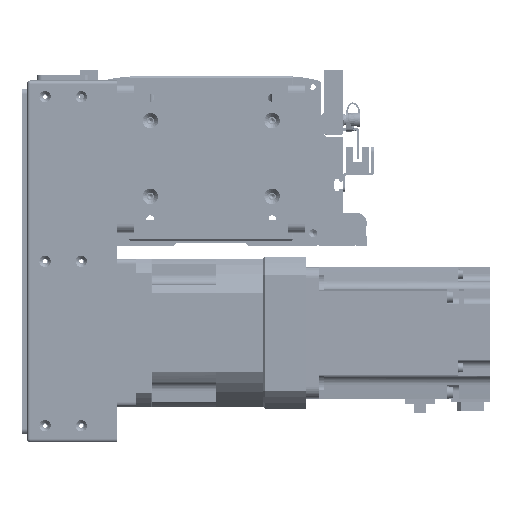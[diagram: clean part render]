
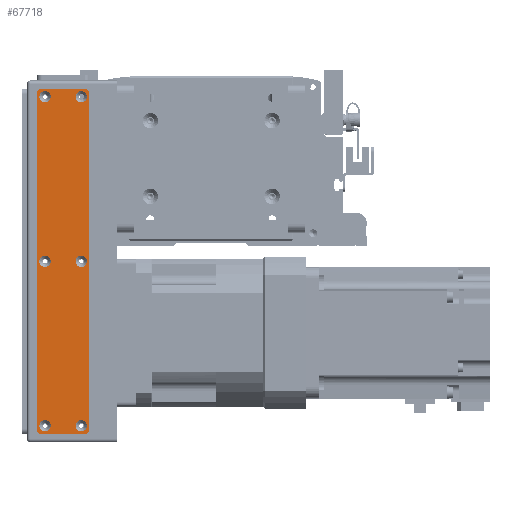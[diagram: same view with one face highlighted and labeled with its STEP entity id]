
A CAD part, front view. The second image highlights one B-rep face of the part: STEP entity #67718.
In plain terms, the highlighted planar face has unit normal (0, -1, 0).
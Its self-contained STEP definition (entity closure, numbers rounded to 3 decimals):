
#2720=FACE_BOUND('',#14126,.T.);
#2721=FACE_BOUND('',#14127,.T.);
#2722=FACE_BOUND('',#14128,.T.);
#2723=FACE_BOUND('',#14129,.T.);
#2724=FACE_BOUND('',#14130,.T.);
#2725=FACE_BOUND('',#14131,.T.);
#4817=PLANE('',#74952);
#9787=FACE_OUTER_BOUND('',#14125,.T.);
#14125=EDGE_LOOP('',(#63800,#63801,#63802,#63803,#63804,#63805,#63806,#63807));
#14126=EDGE_LOOP('',(#63808));
#14127=EDGE_LOOP('',(#63809));
#14128=EDGE_LOOP('',(#63810));
#14129=EDGE_LOOP('',(#63811));
#14130=EDGE_LOOP('',(#63812));
#14131=EDGE_LOOP('',(#63813));
#20386=LINE('',#116625,#26640);
#20387=LINE('',#116629,#26641);
#20388=LINE('',#116633,#26642);
#20389=LINE('',#116636,#26643);
#26640=VECTOR('',#94333,10.);
#26641=VECTOR('',#94336,10.);
#26642=VECTOR('',#94339,10.);
#26643=VECTOR('',#94342,10.);
#29270=CIRCLE('',#74920,3.45);
#29273=CIRCLE('',#74925,3.45);
#29276=CIRCLE('',#74930,3.45);
#29279=CIRCLE('',#74935,3.45);
#29282=CIRCLE('',#74940,3.45);
#29285=CIRCLE('',#74945,3.45);
#29288=CIRCLE('',#74950,3.);
#29290=CIRCLE('',#74953,3.);
#29291=CIRCLE('',#74954,3.);
#29292=CIRCLE('',#74955,3.);
#35505=VERTEX_POINT('',#116555);
#35508=VERTEX_POINT('',#116565);
#35511=VERTEX_POINT('',#116575);
#35514=VERTEX_POINT('',#116585);
#35517=VERTEX_POINT('',#116595);
#35520=VERTEX_POINT('',#116605);
#35523=VERTEX_POINT('',#116615);
#35524=VERTEX_POINT('',#116616);
#35527=VERTEX_POINT('',#116624);
#35528=VERTEX_POINT('',#116626);
#35529=VERTEX_POINT('',#116628);
#35530=VERTEX_POINT('',#116630);
#35531=VERTEX_POINT('',#116632);
#35532=VERTEX_POINT('',#116634);
#44924=EDGE_CURVE('',#35505,#35505,#29270,.T.);
#44929=EDGE_CURVE('',#35508,#35508,#29273,.T.);
#44934=EDGE_CURVE('',#35511,#35511,#29276,.T.);
#44939=EDGE_CURVE('',#35514,#35514,#29279,.T.);
#44944=EDGE_CURVE('',#35517,#35517,#29282,.T.);
#44949=EDGE_CURVE('',#35520,#35520,#29285,.T.);
#44954=EDGE_CURVE('',#35523,#35524,#29288,.T.);
#44958=EDGE_CURVE('',#35523,#35527,#20386,.T.);
#44959=EDGE_CURVE('',#35528,#35527,#29290,.T.);
#44960=EDGE_CURVE('',#35528,#35529,#20387,.T.);
#44961=EDGE_CURVE('',#35530,#35529,#29291,.T.);
#44962=EDGE_CURVE('',#35530,#35531,#20388,.T.);
#44963=EDGE_CURVE('',#35532,#35531,#29292,.T.);
#44964=EDGE_CURVE('',#35532,#35524,#20389,.T.);
#63800=ORIENTED_EDGE('',*,*,#44954,.F.);
#63801=ORIENTED_EDGE('',*,*,#44958,.T.);
#63802=ORIENTED_EDGE('',*,*,#44959,.F.);
#63803=ORIENTED_EDGE('',*,*,#44960,.T.);
#63804=ORIENTED_EDGE('',*,*,#44961,.F.);
#63805=ORIENTED_EDGE('',*,*,#44962,.T.);
#63806=ORIENTED_EDGE('',*,*,#44963,.F.);
#63807=ORIENTED_EDGE('',*,*,#44964,.T.);
#63808=ORIENTED_EDGE('',*,*,#44924,.T.);
#63809=ORIENTED_EDGE('',*,*,#44929,.T.);
#63810=ORIENTED_EDGE('',*,*,#44934,.T.);
#63811=ORIENTED_EDGE('',*,*,#44939,.T.);
#63812=ORIENTED_EDGE('',*,*,#44944,.T.);
#63813=ORIENTED_EDGE('',*,*,#44949,.T.);
#67718=ADVANCED_FACE('',(#9787,#2720,#2721,#2722,#2723,#2724,#2725),#4817,
 .T.);
#74920=AXIS2_PLACEMENT_3D('',#116556,#94253,#94254);
#74925=AXIS2_PLACEMENT_3D('',#116566,#94265,#94266);
#74930=AXIS2_PLACEMENT_3D('',#116576,#94277,#94278);
#74935=AXIS2_PLACEMENT_3D('',#116586,#94289,#94290);
#74940=AXIS2_PLACEMENT_3D('',#116596,#94301,#94302);
#74945=AXIS2_PLACEMENT_3D('',#116606,#94313,#94314);
#74950=AXIS2_PLACEMENT_3D('',#116617,#94325,#94326);
#74952=AXIS2_PLACEMENT_3D('',#116623,#94331,#94332);
#74953=AXIS2_PLACEMENT_3D('',#116627,#94334,#94335);
#74954=AXIS2_PLACEMENT_3D('',#116631,#94337,#94338);
#74955=AXIS2_PLACEMENT_3D('',#116635,#94340,#94341);
#94253=DIRECTION('center_axis',(0.,1.,0.));
#94254=DIRECTION('ref_axis',(1.,0.,0.));
#94265=DIRECTION('center_axis',(0.,1.,0.));
#94266=DIRECTION('ref_axis',(1.,0.,0.));
#94277=DIRECTION('center_axis',(0.,1.,0.));
#94278=DIRECTION('ref_axis',(1.,0.,0.));
#94289=DIRECTION('center_axis',(0.,1.,0.));
#94290=DIRECTION('ref_axis',(1.,0.,0.));
#94301=DIRECTION('center_axis',(0.,1.,0.));
#94302=DIRECTION('ref_axis',(1.,0.,0.));
#94313=DIRECTION('center_axis',(0.,1.,0.));
#94314=DIRECTION('ref_axis',(1.,0.,0.));
#94325=DIRECTION('center_axis',(0.,1.,0.));
#94326=DIRECTION('ref_axis',(-0.707,0.,0.707));
#94331=DIRECTION('center_axis',(0.,-1.,0.));
#94332=DIRECTION('ref_axis',(0.,0.,-1.));
#94333=DIRECTION('',(0.,0.,-1.));
#94334=DIRECTION('center_axis',(0.,1.,0.));
#94335=DIRECTION('ref_axis',(-0.707,0.,-0.707));
#94336=DIRECTION('',(1.,0.,0.));
#94337=DIRECTION('center_axis',(0.,1.,0.));
#94338=DIRECTION('ref_axis',(0.707,0.,-0.707));
#94339=DIRECTION('',(0.,0.,1.));
#94340=DIRECTION('center_axis',(0.,1.,0.));
#94341=DIRECTION('ref_axis',(0.707,0.,0.707));
#94342=DIRECTION('',(-1.,0.,0.));
#116555=CARTESIAN_POINT('',(96.55,-1.5,11.));
#116556=CARTESIAN_POINT('Origin',(100.,-1.5,11.));
#116565=CARTESIAN_POINT('',(-103.45,-1.5,-11.));
#116566=CARTESIAN_POINT('Origin',(-100.,-1.5,-11.));
#116575=CARTESIAN_POINT('',(-3.45,-1.5,11.));
#116576=CARTESIAN_POINT('Origin',(0.,-1.5,11.));
#116585=CARTESIAN_POINT('',(-3.45,-1.5,-11.));
#116586=CARTESIAN_POINT('Origin',(0.,-1.5,-11.));
#116595=CARTESIAN_POINT('',(-103.45,-1.5,11.));
#116596=CARTESIAN_POINT('Origin',(-100.,-1.5,11.));
#116605=CARTESIAN_POINT('',(96.55,-1.5,-11.));
#116606=CARTESIAN_POINT('Origin',(100.,-1.5,-11.));
#116615=CARTESIAN_POINT('',(-105.,-1.5,13.));
#116616=CARTESIAN_POINT('',(-102.,-1.5,16.));
#116617=CARTESIAN_POINT('Origin',(-102.,-1.5,13.));
#116623=CARTESIAN_POINT('Origin',(0.,-1.5,0.));
#116624=CARTESIAN_POINT('',(-105.,-1.5,-13.));
#116625=CARTESIAN_POINT('',(-105.,-1.5,16.));
#116626=CARTESIAN_POINT('',(-102.,-1.5,-16.));
#116627=CARTESIAN_POINT('Origin',(-102.,-1.5,-13.));
#116628=CARTESIAN_POINT('',(102.,-1.5,-16.));
#116629=CARTESIAN_POINT('',(-105.,-1.5,-16.));
#116630=CARTESIAN_POINT('',(105.,-1.5,-13.));
#116631=CARTESIAN_POINT('Origin',(102.,-1.5,-13.));
#116632=CARTESIAN_POINT('',(105.,-1.5,13.));
#116633=CARTESIAN_POINT('',(105.,-1.5,-16.));
#116634=CARTESIAN_POINT('',(102.,-1.5,16.));
#116635=CARTESIAN_POINT('Origin',(102.,-1.5,13.));
#116636=CARTESIAN_POINT('',(105.,-1.5,16.));
